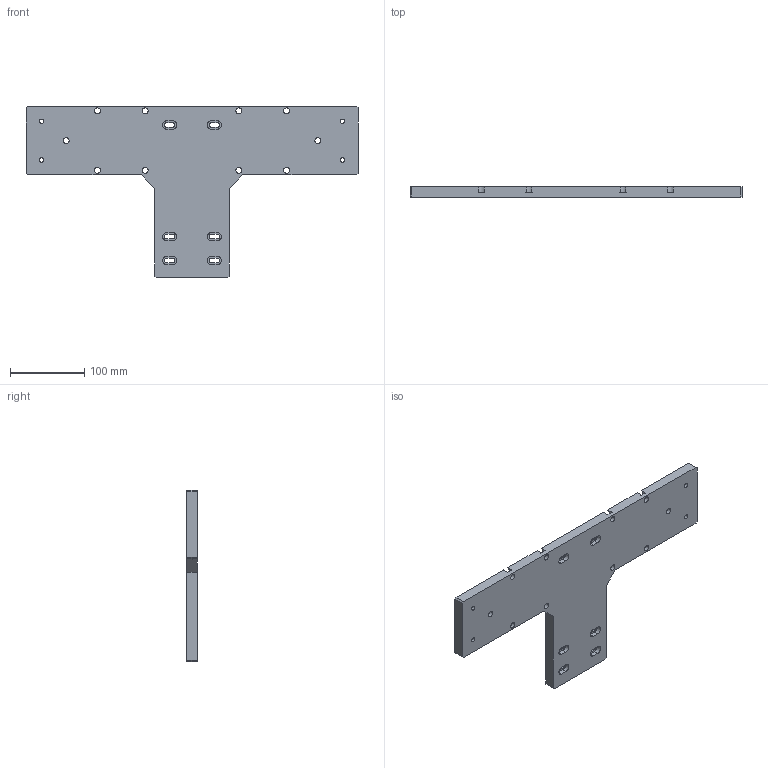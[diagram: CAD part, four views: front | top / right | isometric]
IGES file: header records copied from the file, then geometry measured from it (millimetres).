
Start section:  PTC IGES file: n100-n100l-st.igs
Global section: file name: n100-n100l-st.igs; native system: Pro/ENGINEER by Parametric Technology Corporation; preprocessor: 2008230; author: Owner; organization: Unknown; date: 20121212.095004; units: millimetre
Bounding box: 446 x 14 x 230 mm (x, y, z)
Surface area: 135917.7 mm2 (no closed solid volume)
Topology: 0 solids, 0 shells, 136 faces, 720 edges, 720 vertices
Faces by surface type: revolution 74, bspline 62
